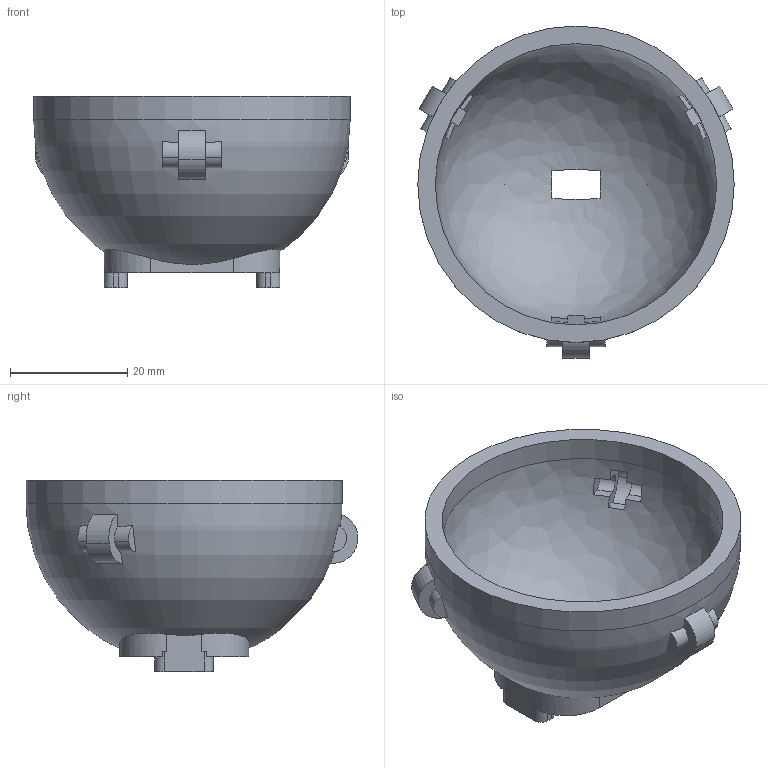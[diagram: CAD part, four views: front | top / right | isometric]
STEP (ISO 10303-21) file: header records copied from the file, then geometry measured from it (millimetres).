
FILE_DESCRIPTION(('Open CASCADE Model'),'2;1');
FILE_NAME('Open CASCADE Shape Model','2026-05-31T19:43:33',('Author'),( 'Open CASCADE'),'Open CASCADE STEP processor 7.6','Open CASCADE 7.6' ,'Unknown');
FILE_SCHEMA(('AP242_MANAGED_MODEL_BASED_3D_ENGINEERING_MIM_LF. {1 0 10303 442 1 1 4 }'));
Length unit declared in the file: millimetre
Products named in the file (1): Open CASCADE STEP translator 7.6 6
Bounding box: 54 x 56.63 x 32.6 mm (x, y, z)
Volume: 14482.3 mm3; surface area: 11013.7 mm2
Topology: 1 solids, 1 shells, 140 faces, 392 edges, 260 vertices
Faces by surface type: plane 74, extrusion 36, cylinder 22, bspline 4, revolution 2, cone 2
Full cylindrical faces by diameter (mm): 2.05 x2, 48 x1, 54 x1
Entity records: 19450 total; most frequent: CARTESIAN_POINT 12029, DIRECTION 1248, ORIENTED_EDGE 780, PCURVE 780, DEFINITIONAL_REPRESENTATION 780, VECTOR 658, LINE 622, EDGE_CURVE 390
